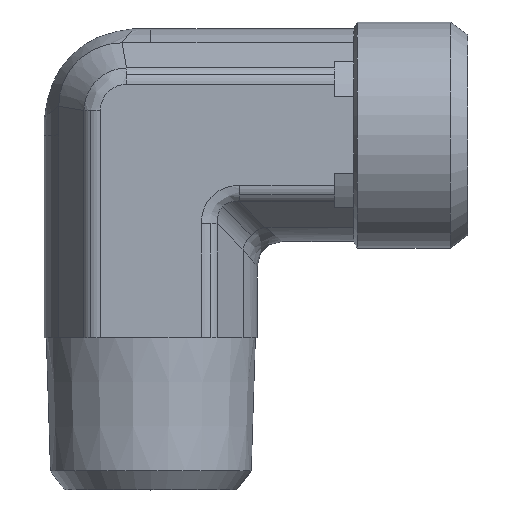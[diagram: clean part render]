
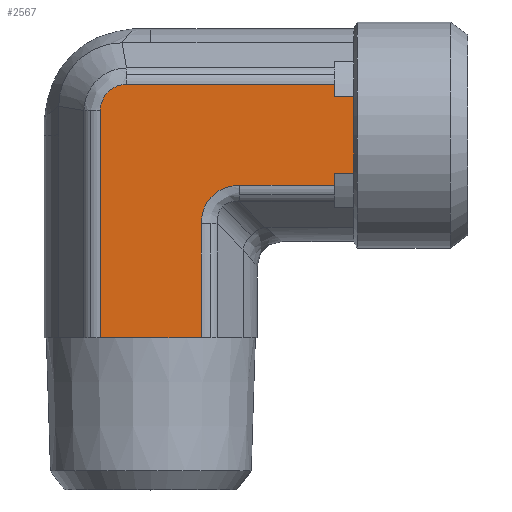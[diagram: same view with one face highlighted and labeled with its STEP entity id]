
A CAD part, top view. The second image highlights one B-rep face of the part: STEP entity #2567.
In plain terms, the highlighted planar face has unit normal (0, 0, 1) as drawn and (0, -1, 0) by its records, which use the part's own axes.
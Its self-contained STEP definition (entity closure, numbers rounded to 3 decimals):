
#361=CARTESIAN_POINT('',(2.515,-8.4,3.984));
#362=VERTEX_POINT('',#361);
#370=CARTESIAN_POINT('',(11.5,-8.4,3.984));
#371=VERTEX_POINT('',#370);
#372=CARTESIAN_POINT('',(2.515,-8.4,3.984));
#373=DIRECTION('',(1.0,0.0,0.0));
#374=VECTOR('',#373,8.985);
#375=LINE('',#372,#374);
#376=EDGE_CURVE('',#362,#371,#375,.T.);
#485=CARTESIAN_POINT('',(-8.484,-8.4,-1.926));
#486=VERTEX_POINT('',#485);
#494=CARTESIAN_POINT('',(-8.484,-8.4,14.5));
#495=VERTEX_POINT('',#494);
#496=CARTESIAN_POINT('',(-8.484,-8.4,-1.926));
#497=DIRECTION('',(0.0,0.0,1.0));
#498=VECTOR('',#497,16.426);
#499=LINE('',#496,#498);
#500=EDGE_CURVE('',#486,#495,#499,.T.);
#2062=CARTESIAN_POINT('',(-0.516,-8.4,14.5));
#2063=VERTEX_POINT('',#2062);
#2064=CARTESIAN_POINT('',(-1.484,-8.4,14.5));
#2065=VERTEX_POINT('',#2064);
#2066=CARTESIAN_POINT('',(-0.516,-8.4,14.5));
#2067=DIRECTION('',(-1.0,0.0,0.0));
#2068=VECTOR('',#2067,0.968);
#2069=LINE('',#2066,#2068);
#2070=EDGE_CURVE('',#2063,#2065,#2069,.T.);
#2121=CARTESIAN_POINT('',(-7.516,-8.4,14.5));
#2122=VERTEX_POINT('',#2121);
#2123=CARTESIAN_POINT('',(-7.516,-8.4,14.5));
#2124=DIRECTION('',(-1.0,0.0,0.0));
#2125=VECTOR('',#2124,0.968);
#2126=LINE('',#2123,#2125);
#2127=EDGE_CURVE('',#2122,#495,#2126,.T.);
#2226=CARTESIAN_POINT('',(-1.484,-8.4,16.0));
#2227=VERTEX_POINT('',#2226);
#2228=CARTESIAN_POINT('',(-1.484,-8.4,14.5));
#2229=DIRECTION('',(0.0,0.0,1.0));
#2230=VECTOR('',#2229,1.5);
#2231=LINE('',#2228,#2230);
#2232=EDGE_CURVE('',#2065,#2227,#2231,.T.);
#2267=CARTESIAN_POINT('',(-7.516,-8.4,16.0));
#2268=VERTEX_POINT('',#2267);
#2269=CARTESIAN_POINT('',(-7.516,-8.4,16.0));
#2270=DIRECTION('',(0.0,0.0,-1.0));
#2271=VECTOR('',#2270,1.5);
#2272=LINE('',#2269,#2271);
#2273=EDGE_CURVE('',#2268,#2122,#2272,.T.);
#2479=CARTESIAN_POINT('',(-4.5,-8.4,16.0));
#2480=VERTEX_POINT('',#2479);
#2481=CARTESIAN_POINT('',(-4.5,-8.4,16.0));
#2482=DIRECTION('',(-1.0,0.0,0.0));
#2483=VECTOR('',#2482,3.016);
#2484=LINE('',#2481,#2483);
#2485=EDGE_CURVE('',#2480,#2268,#2484,.T.);
#2503=CARTESIAN_POINT('',(-4.5,-8.4,-3.175));
#2504=DIRECTION('',(0.0,-1.0,0.0));
#2505=DIRECTION('',(0.0,0.0,-1.0));
#2506=AXIS2_PLACEMENT_3D('',#2503,#2504,#2505);
#2507=PLANE('',#2506);
#2508=ORIENTED_EDGE('',*,*,#2273,.T.);
#2509=ORIENTED_EDGE('',*,*,#2127,.T.);
#2510=ORIENTED_EDGE('',*,*,#500,.F.);
#2511=CARTESIAN_POINT('',(-6.426,-8.4,-3.984));
#2512=VERTEX_POINT('',#2511);
#2513=CARTESIAN_POINT('',(-8.484,-8.4,-1.926));
#2514=CARTESIAN_POINT('',(-8.484,-8.4,-2.06));
#2515=CARTESIAN_POINT('',(-8.47,-8.4,-2.195));
#2516=CARTESIAN_POINT('',(-8.402,-8.4,-2.54));
#2517=CARTESIAN_POINT('',(-8.326,-8.4,-2.743));
#2518=CARTESIAN_POINT('',(-8.051,-8.4,-3.233));
#2519=CARTESIAN_POINT('',(-7.806,-8.4,-3.49));
#2520=CARTESIAN_POINT('',(-7.186,-8.4,-3.876));
#2521=CARTESIAN_POINT('',(-6.806,-8.4,-3.984));
#2522=CARTESIAN_POINT('',(-6.426,-8.4,-3.984));
#2523=B_SPLINE_CURVE_WITH_KNOTS('',3,(#2513,#2514,#2515,#2516,#2517,#2518,#2519,#2520,#2521,#2522),.UNSPECIFIED.,.F.,.U.,(4,2,2,2,4),(-3.216,-2.814,-2.171,-1.142,0.0),.UNSPECIFIED.);
#2524=EDGE_CURVE('',#2512,#486,#2523,.F.);
#2525=ORIENTED_EDGE('',*,*,#2524,.F.);
#2526=CARTESIAN_POINT('',(11.5,-8.4,-3.984));
#2527=VERTEX_POINT('',#2526);
#2528=CARTESIAN_POINT('',(11.5,-8.4,-3.984));
#2529=DIRECTION('',(-1.0,0.0,0.0));
#2530=VECTOR('',#2529,17.926);
#2531=LINE('',#2528,#2530);
#2532=EDGE_CURVE('',#2527,#2512,#2531,.T.);
#2533=ORIENTED_EDGE('',*,*,#2532,.F.);
#2534=CARTESIAN_POINT('',(11.5,-8.4,-3.984));
#2535=DIRECTION('',(0.0,0.0,1.0));
#2536=VECTOR('',#2535,7.967);
#2537=LINE('',#2534,#2536);
#2538=EDGE_CURVE('',#2527,#371,#2537,.T.);
#2539=ORIENTED_EDGE('',*,*,#2538,.T.);
#2540=ORIENTED_EDGE('',*,*,#376,.F.);
#2541=CARTESIAN_POINT('',(-0.516,-8.4,7.015));
#2542=VERTEX_POINT('',#2541);
#2543=CARTESIAN_POINT('',(3.525,-8.4,8.025));
#2544=DIRECTION('',(0.,-1.,0.));
#2545=DIRECTION('',(-0.707,0.,-0.707));
#2546=AXIS2_PLACEMENT_3D('',#2543,#2544,#2545);
#2547=ELLIPSE('',#2546,4.518,3.5);
#2548=EDGE_CURVE('',#2542,#362,#2547,.T.);
#2549=ORIENTED_EDGE('',*,*,#2548,.F.);
#2550=CARTESIAN_POINT('',(-0.516,-8.4,14.5));
#2551=DIRECTION('',(0.0,0.0,-1.0));
#2552=VECTOR('',#2551,7.485);
#2553=LINE('',#2550,#2552);
#2554=EDGE_CURVE('',#2063,#2542,#2553,.T.);
#2555=ORIENTED_EDGE('',*,*,#2554,.F.);
#2556=ORIENTED_EDGE('',*,*,#2070,.T.);
#2557=ORIENTED_EDGE('',*,*,#2232,.T.);
#2558=CARTESIAN_POINT('',(-1.484,-8.4,16.0));
#2559=DIRECTION('',(-1.0,0.0,0.0));
#2560=VECTOR('',#2559,3.016);
#2561=LINE('',#2558,#2560);
#2562=EDGE_CURVE('',#2227,#2480,#2561,.T.);
#2563=ORIENTED_EDGE('',*,*,#2562,.T.);
#2564=ORIENTED_EDGE('',*,*,#2485,.T.);
#2565=EDGE_LOOP('',(#2508,#2509,#2510,#2525,#2533,#2539,#2540,#2549,#2555,#2556,#2557,#2563,#2564));
#2566=FACE_OUTER_BOUND('',#2565,.T.);
#2567=ADVANCED_FACE('',(#2566),#2507,.T.);
